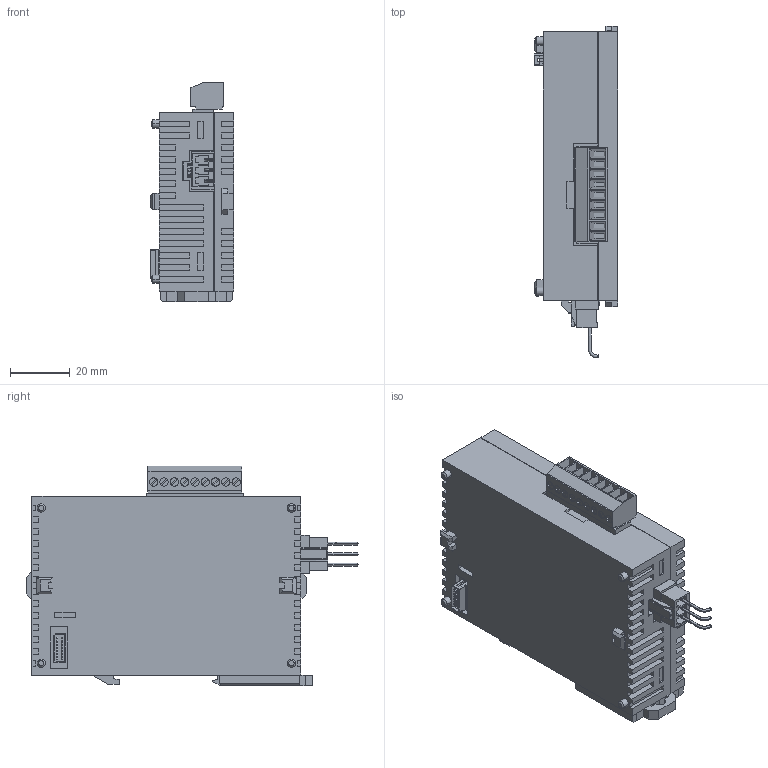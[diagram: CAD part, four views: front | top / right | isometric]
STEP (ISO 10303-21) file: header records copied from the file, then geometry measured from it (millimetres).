
FILE_DESCRIPTION (( 'STEP AP214' ), '1' );
FILE_NAME ('afp04121.stp', '2008-08-28T04:35:32', ( '' ), ( 'PanasonicElectricWorks' ), '', '', '' );
FILE_SCHEMA (( 'AUTOMOTIVE_DESIGN' ));
Length unit declared in the file: millimetre
Products named in the file (1): afp04121
Bounding box: 28 x 111.19 x 73.45 mm (x, y, z)
Volume: 137934.2 mm3; surface area: 25504.4 mm2
Topology: 1 solids, 4 shells, 830 faces, 2241 edges, 1476 vertices
Faces by surface type: plane 737, cylinder 57, bspline 28, cone 8
Entity records: 43117 total; most frequent: CARTESIAN_POINT 13104, ORIENTED_EDGE 4482, DIRECTION 3965, EDGE_CURVE 2241, VECTOR 2039, LINE 2039, VERTEX_POINT 1476, AXIS2_PLACEMENT_3D 963
